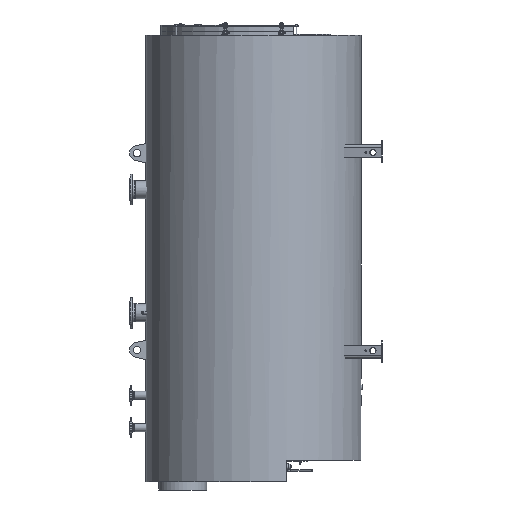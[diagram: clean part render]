
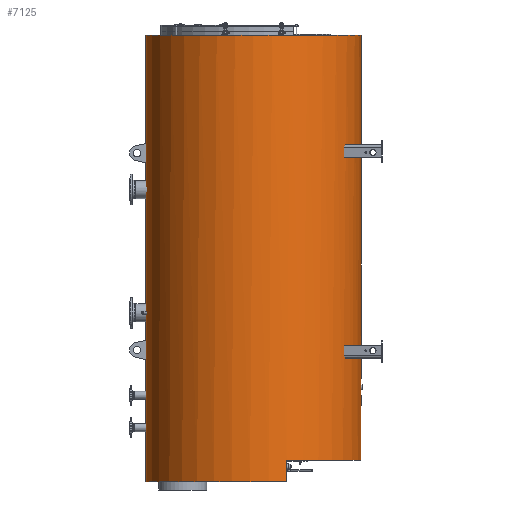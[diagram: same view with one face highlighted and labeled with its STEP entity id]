
A CAD part, left-side view. The second image highlights one B-rep face of the part: STEP entity #7125.
In plain terms, the highlighted cylindrical face has radius 1005 mm (diameter 2010 mm), a full revolution.
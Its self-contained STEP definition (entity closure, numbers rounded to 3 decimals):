
#4926=CYLINDRICAL_SURFACE('',#25348,1005.);
#5345=FACE_BOUND('',#9873,.T.);
#5346=FACE_BOUND('',#9874,.T.);
#5347=FACE_BOUND('',#9875,.T.);
#6587=B_SPLINE_CURVE_WITH_KNOTS('',3,(#33674,#33675,#33676,#33677,#33678,
#33679,#33680,#33681,#33682,#33683,#33684,#33685,#33686,#33687,#33688,#33689,
#33690,#33691,#33692,#33693,#33694,#33695,#33696,#33697,#33698,#33699,#33700,
#33701,#33702,#33703,#33704,#33705,#33706,#33707,#33708,#33709,#33710,#33711,
#33712,#33713,#33714,#33715,#33716,#33717,#33718,#33719,#33720,#33721,#33722,
#33723,#33724,#33725,#33726,#33727,#33728,#33729,#33730,#33731,#33732,#33733,
#33734,#33735,#33736,#33737,#33738,#33739),.UNSPECIFIED.,.T.,.F.,(2,2,2,
2,2,2,2,2,2,2,2,2,2,2,2,2,2,2,2,2,2,2,2,2,2,2,2,2,2,2,2,2,2,2,2),(-0.031,
0.,0.031,0.063,0.094,0.125,0.156,0.188,0.219,
0.25,0.281,0.313,0.344,0.375,0.406,0.438,
0.469,0.5,0.531,0.563,
0.594,0.625,0.656,0.688,
0.719,0.75,0.781,0.813,0.844,0.875,0.906,
0.938,0.969,1.,1.031),.UNSPECIFIED.);
#7125=ADVANCED_FACE('',(#5345,#5346,#5347),#4926,.T.);
#9873=EDGE_LOOP('',(#12804));
#9874=EDGE_LOOP('',(#12805,#12806,#12807,#12808));
#9875=EDGE_LOOP('',(#12809));
#11872=CIRCLE('',#25343,1005.);
#11874=CIRCLE('',#25346,1005.);
#11875=CIRCLE('',#25347,1005.);
#12804=ORIENTED_EDGE('',*,*,#20235,.F.);
#12805=ORIENTED_EDGE('',*,*,#20236,.F.);
#12806=ORIENTED_EDGE('',*,*,#20237,.F.);
#12807=ORIENTED_EDGE('',*,*,#20238,.T.);
#12808=ORIENTED_EDGE('',*,*,#20230,.T.);
#12809=ORIENTED_EDGE('',*,*,#20239,.F.);
#18206=VERTEX_POINT('',#33662);
#18208=VERTEX_POINT('',#33665);
#18212=VERTEX_POINT('',#33740);
#18213=VERTEX_POINT('',#33742);
#18214=VERTEX_POINT('',#33744);
#18215=VERTEX_POINT('',#33747);
#20230=EDGE_CURVE('',#18208,#18206,#11872,.T.);
#20235=EDGE_CURVE('',#18212,#18212,#6587,.T.);
#20236=EDGE_CURVE('',#18213,#18206,#22937,.T.);
#20237=EDGE_CURVE('',#18214,#18213,#11874,.T.);
#20238=EDGE_CURVE('',#18214,#18208,#22938,.T.);
#20239=EDGE_CURVE('',#18215,#18215,#11875,.T.);
#22937=LINE('',#33741,#24120);
#22938=LINE('',#33745,#24121);
#24120=VECTOR('',#27718,1.);
#24121=VECTOR('',#27721,1.);
#25343=AXIS2_PLACEMENT_3D('',#33664,#27709,#27710);
#25346=AXIS2_PLACEMENT_3D('',#33743,#27719,#27720);
#25347=AXIS2_PLACEMENT_3D('',#33746,#27722,#27723);
#25348=AXIS2_PLACEMENT_3D('',#33748,#27724,#27725);
#27709=DIRECTION('',(0.,0.,1.));
#27710=DIRECTION('',(1.,0.,0.));
#27718=DIRECTION('',(0.,0.,-1.));
#27719=DIRECTION('',(0.,0.,-1.));
#27720=DIRECTION('',(1.,0.,0.));
#27721=DIRECTION('',(0.,0.,-1.));
#27722=DIRECTION('',(0.,0.,1.));
#27723=DIRECTION('',(1.,0.,0.));
#27724=DIRECTION('',(0.,0.,1.));
#27725=DIRECTION('',(1.,0.,0.));
#33662=CARTESIAN_POINT('',(-955.994,-310.,-4020.));
#33664=CARTESIAN_POINT('',(0.,0.,-4020.));
#33665=CARTESIAN_POINT('',(955.994,-310.,-4020.));
#33674=CARTESIAN_POINT('',(-5.618,-1005.,-3222.));
#33675=CARTESIAN_POINT('',(5.618,-1005.,-3222.));
#33676=CARTESIAN_POINT('',(11.142,-1004.953,-3221.448));
#33677=CARTESIAN_POINT('',(22.009,-1004.774,-3219.288));
#33678=CARTESIAN_POINT('',(27.408,-1004.639,-3217.653));
#33679=CARTESIAN_POINT('',(37.701,-1004.306,-3213.385));
#33680=CARTESIAN_POINT('',(42.582,-1004.108,-3210.774));
#33681=CARTESIAN_POINT('',(51.82,-1003.674,-3204.606));
#33682=CARTESIAN_POINT('',(56.191,-1003.436,-3201.017));
#33683=CARTESIAN_POINT('',(64.029,-1002.966,-3193.179));
#33684=CARTESIAN_POINT('',(67.546,-1002.732,-3188.901));
#33685=CARTESIAN_POINT('',(73.76,-1002.294,-3179.611));
#33686=CARTESIAN_POINT('',(76.399,-1002.094,-3174.667));
#33687=CARTESIAN_POINT('',(80.639,-1001.762,-3164.44));
#33688=CARTESIAN_POINT('',(82.272,-1001.627,-3159.082));
#33689=CARTESIAN_POINT('',(84.456,-1001.446,-3148.109));
#33690=CARTESIAN_POINT('',(84.997,-1001.399,-3142.592));
#33691=CARTESIAN_POINT('',(85.003,-1001.399,-3131.5));
#33692=CARTESIAN_POINT('',(84.451,-1001.446,-3125.866));
#33693=CARTESIAN_POINT('',(82.282,-1001.627,-3114.963));
#33694=CARTESIAN_POINT('',(80.677,-1001.759,-3109.663));
#33695=CARTESIAN_POINT('',(76.42,-1002.093,-3099.369));
#33696=CARTESIAN_POINT('',(73.759,-1002.294,-3094.395));
#33697=CARTESIAN_POINT('',(67.609,-1002.728,-3085.186));
#33698=CARTESIAN_POINT('',(64.097,-1002.962,-3080.893));
#33699=CARTESIAN_POINT('',(56.166,-1003.437,-3072.954));
#33700=CARTESIAN_POINT('',(51.872,-1003.671,-3069.436));
#33701=CARTESIAN_POINT('',(42.671,-1004.104,-3063.278));
#33702=CARTESIAN_POINT('',(37.703,-1004.306,-3060.616));
#33703=CARTESIAN_POINT('',(27.407,-1004.639,-3056.347));
#33704=CARTESIAN_POINT('',(22.109,-1004.772,-3054.738));
#33705=CARTESIAN_POINT('',(11.214,-1004.952,-3052.56));
#33706=CARTESIAN_POINT('',(5.579,-1005.,-3052.002));
#33707=CARTESIAN_POINT('',(-5.517,-1005.,-3051.998));
#33708=CARTESIAN_POINT('',(-11.033,-1004.954,-3052.534));
#33709=CARTESIAN_POINT('',(-21.999,-1004.774,-3054.706));
#33710=CARTESIAN_POINT('',(-27.369,-1004.64,-3056.337));
#33711=CARTESIAN_POINT('',(-37.601,-1004.309,-3060.568));
#33712=CARTESIAN_POINT('',(-42.541,-1004.11,-3063.199));
#33713=CARTESIAN_POINT('',(-51.843,-1003.673,-3069.409));
#33714=CARTESIAN_POINT('',(-56.124,-1003.439,-3072.924));
#33715=CARTESIAN_POINT('',(-63.968,-1002.97,-3080.752));
#33716=CARTESIAN_POINT('',(-67.56,-1002.731,-3085.12));
#33717=CARTESIAN_POINT('',(-73.738,-1002.296,-3094.355));
#33718=CARTESIAN_POINT('',(-76.352,-1002.098,-3099.233));
#33719=CARTESIAN_POINT('',(-80.626,-1001.763,-3109.515));
#33720=CARTESIAN_POINT('',(-82.268,-1001.628,-3114.918));
#33721=CARTESIAN_POINT('',(-84.439,-1001.447,-3125.784));
#33722=CARTESIAN_POINT('',(-84.994,-1001.399,-3131.305));
#33723=CARTESIAN_POINT('',(-85.005,-1001.399,-3142.53));
#33724=CARTESIAN_POINT('',(-84.458,-1001.445,-3148.068));
#33725=CARTESIAN_POINT('',(-82.308,-1001.624,-3158.935));
#33726=CARTESIAN_POINT('',(-80.679,-1001.759,-3164.33));
#33727=CARTESIAN_POINT('',(-76.419,-1002.093,-3174.634));
#33728=CARTESIAN_POINT('',(-73.811,-1002.291,-3179.517));
#33729=CARTESIAN_POINT('',(-67.654,-1002.725,-3188.757));
#33730=CARTESIAN_POINT('',(-64.069,-1002.963,-3193.133));
#33731=CARTESIAN_POINT('',(-56.235,-1003.433,-3200.98));
#33732=CARTESIAN_POINT('',(-51.961,-1003.667,-3204.5));
#33733=CARTESIAN_POINT('',(-42.683,-1004.104,-3210.718));
#33734=CARTESIAN_POINT('',(-37.734,-1004.304,-3213.366));
#33735=CARTESIAN_POINT('',(-27.511,-1004.636,-3217.615));
#33736=CARTESIAN_POINT('',(-22.169,-1004.77,-3219.249));
#33737=CARTESIAN_POINT('',(-11.175,-1004.953,-3221.448));
#33738=CARTESIAN_POINT('',(-5.618,-1005.,-3222.));
#33739=CARTESIAN_POINT('',(5.618,-1005.,-3222.));
#33740=CARTESIAN_POINT('',(0.,-1005.,-3222.));
#33741=CARTESIAN_POINT('',(-955.994,-310.,-3817.));
#33742=CARTESIAN_POINT('',(-955.994,-310.,-3817.));
#33743=CARTESIAN_POINT('',(0.,0.,-3817.));
#33744=CARTESIAN_POINT('',(955.994,-310.,-3817.));
#33745=CARTESIAN_POINT('',(955.994,-310.,-3817.));
#33746=CARTESIAN_POINT('',(0.,0.,150.));
#33747=CARTESIAN_POINT('',(1005.,0.,150.));
#33748=CARTESIAN_POINT('',(0.,0.,-4020.));
